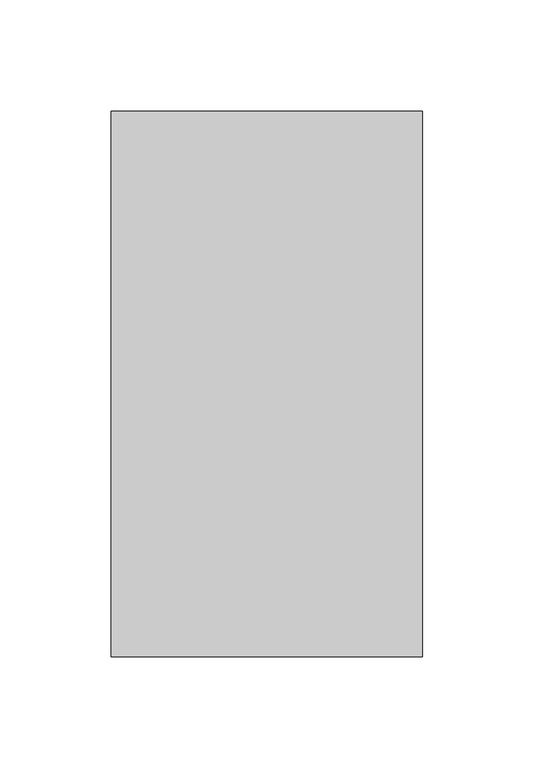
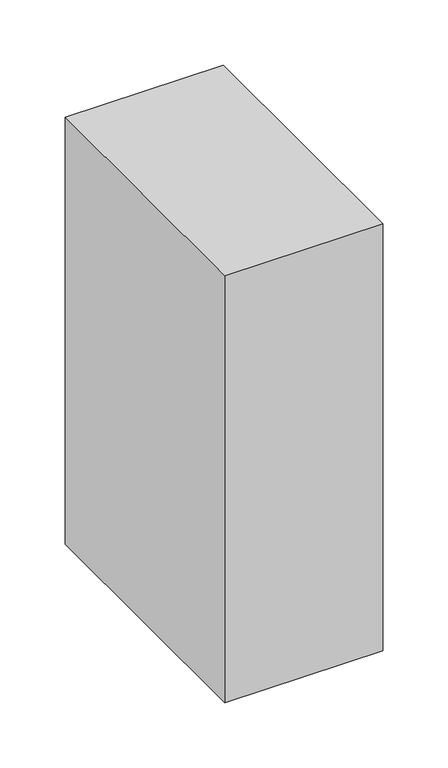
"""IFC4 building model written with IfcOpenShell, lengths in millimetres: proxy geometry."""

from ifc_helpers import new_model, si_unit, frame, origin, place, context, project, spatial, polyline, outline, extrude, source, transform, mapped, element, save


def structural_framing_75dd6a97(model_context):
    return source(origin(), model_context, "Body", "SweptSolid", [
        extrude(outline(polyline([(70.0, -122.5), (-70.0, -122.5), (-70.0, 122.5), (70.0, 122.5), (70.0, -122.5)])), frame((0.0, 0.0, -400.0), z_axis=(0.0, 0.0, 1.0), x_axis=(1.0, 0.0, 0.0)), (0.0, 0.0, 1.0), 400.0),
    ])


if __name__ == "__main__":
    model = new_model("IFC4")
    model_context = context("Model", 3, world=origin())
    ifc_project = project(units=[si_unit("LENGTHUNIT", "METRE", prefix="MILLI")], contexts=[model_context])
    site = spatial("IfcSite", under=ifc_project)
    building = spatial("IfcBuilding", under=site)
    placement = place(None, origin())
    structural_framing_shape = structural_framing_75dd6a97(model_context)
    element("IfcBuildingElementProxy", 1, Name="Structural Framing", at=placement, inside=building, context=model_context, shape_type="MappedRepresentation", body=[
        mapped(structural_framing_shape, transform((0.0, 0.0, 0.0), x_axis=(1.0, 0.0, 0.0), y_axis=(0.0, 1.0, 0.0), z_axis=(0.0, 0.0, 1.0))),
    ])
    save(model, "model.ifc")
